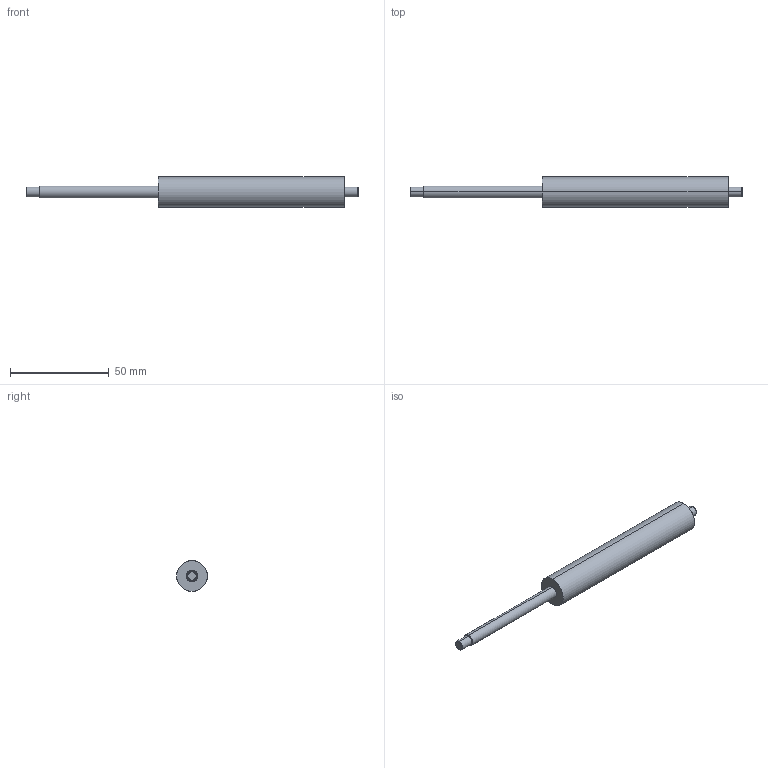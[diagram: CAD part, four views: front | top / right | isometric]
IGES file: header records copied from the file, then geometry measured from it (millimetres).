
Start section: SolidWorks IGES file using analytic representation for surfaces
Bounding box: 168 x 15.6 x 15.6 mm (x, y, z)
Surface area: 6332.2 mm2 (no closed solid volume)
Topology: 0 solids, 0 shells, 17 faces, 304 edges, 304 vertices
Faces by surface type: revolution 12, bspline 5
